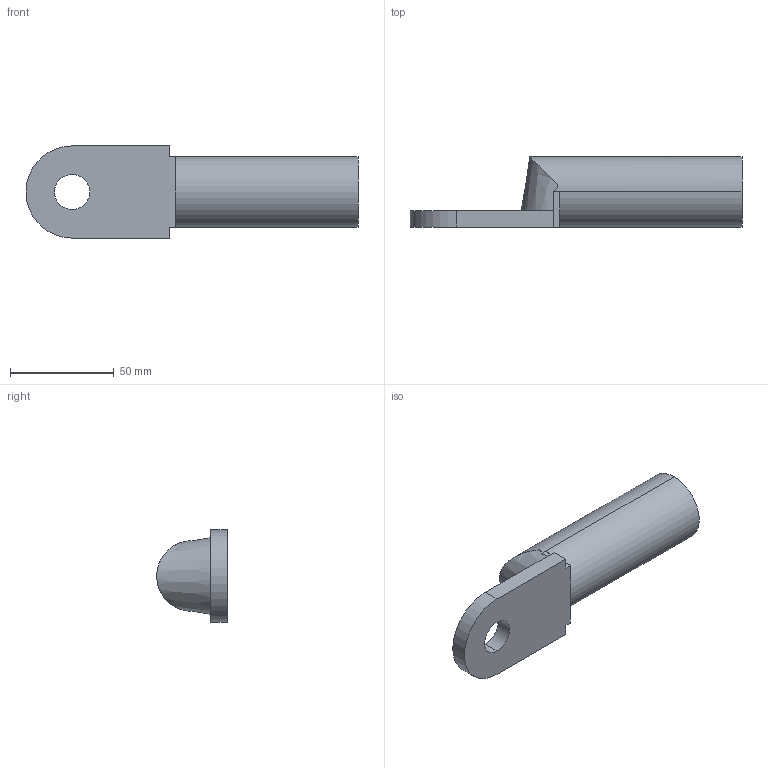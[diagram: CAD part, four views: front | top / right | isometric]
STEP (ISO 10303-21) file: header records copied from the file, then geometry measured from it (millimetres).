
FILE_DESCRIPTION (( 'STEP AP214' ), '1' );
FILE_NAME ('DL-300-16.STEP', '2020-04-24T12:33:51', ( '' ), ( '' ), 'SwSTEP 2.0', 'SolidWorks 2018', '' );
FILE_SCHEMA (( 'AUTOMOTIVE_DESIGN' ));
Length unit declared in the file: millimetre
Products named in the file (1): DL-300-16
Bounding box: 160.25 x 34 x 44.5 mm (x, y, z)
Volume: 74265.6 mm3; surface area: 25342.8 mm2
Topology: 1 solids, 1 shells, 20 faces, 48 edges, 31 vertices
Faces by surface type: plane 12, cylinder 7, cone 1
Entity records: 708 total; most frequent: CARTESIAN_POINT 197, DIRECTION 100, ORIENTED_EDGE 96, EDGE_CURVE 48, AXIS2_PLACEMENT_3D 36, VERTEX_POINT 31, VECTOR 28, LINE 28
